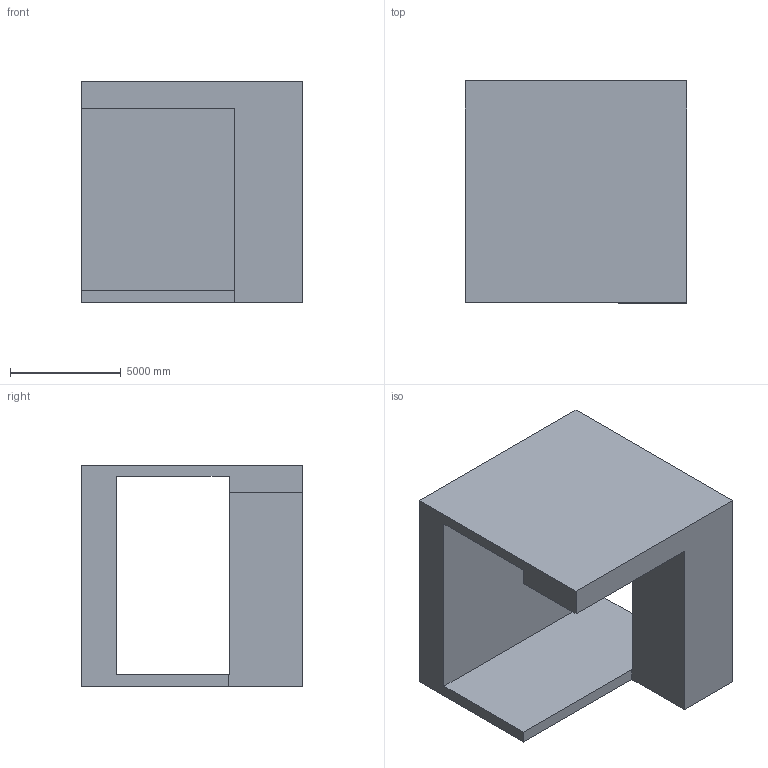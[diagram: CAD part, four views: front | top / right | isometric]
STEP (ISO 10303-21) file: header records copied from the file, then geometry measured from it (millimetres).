
FILE_DESCRIPTION (( 'STEP AP203' ), '1' );
FILE_NAME ('27.STEP', '2022-07-28T13:26:25', ( 'user' ), ( '' ), 'SwSTEP 2.0', 'SolidWorks 2021', '' );
FILE_SCHEMA (( 'CONFIG_CONTROL_DESIGN' ));
Length unit declared in the file: centimetre
Products named in the file (1): 27
Bounding box: 10000 x 10000 x 10000 mm (x, y, z)
Volume: 343174940959.3 mm3; surface area: 676119230.2 mm2
Topology: 1 solids, 1 shells, 13 faces, 36 edges, 24 vertices
Faces by surface type: plane 13
Entity records: 491 total; most frequent: CARTESIAN_POINT 74, ORIENTED_EDGE 72, DIRECTION 64, LINE 36, VECTOR 36, EDGE_CURVE 36, VERTEX_POINT 24, EDGE_LOOP 14
